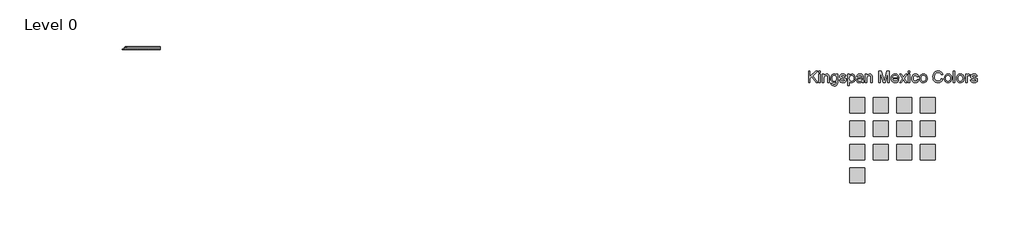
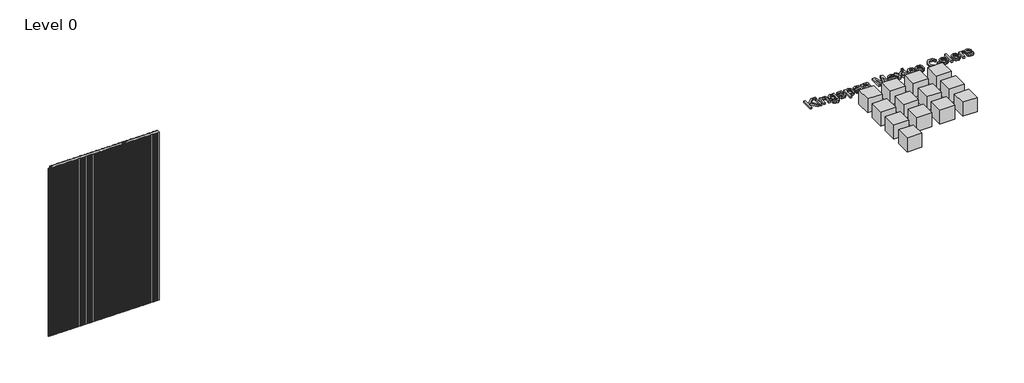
# One storey: 14 proxies, 2 plates.
"""IFC4 building model written with IfcOpenShell, lengths in millimetres."""

from ifc_helpers import new_model, si_unit, origin, place, context, project, spatial, transform, mapped, element, save
from components import generic_models_94ed907e, ks_colour_sample_ks_colour_sample_0243efec, vt_040mm_0b9b046a, vt_040mm_48560dee

model = new_model("IFC4")

# Units and contexts
model_context = context("Model", 3, world=origin())
ifc_project = project(units=[si_unit("LENGTHUNIT", "METRE", prefix="MILLI")], contexts=[model_context])

# Site, building, storey
site = spatial("IfcSite", under=ifc_project)
building = spatial("IfcBuilding", under=site)
storey = spatial("IfcBuildingStorey", under=building, Name="Level 0", Elevation=0.0)

# Proxies
placement = place(None, origin())
generic_models_shape = generic_models_94ed907e(model_context)
element("IfcBuildingElementProxy", 1, Name="KIP-MX_ColourRange_English : KIP-MX_ColourRange_English", ObjectType="KIP-MX_ColourRange_English : KIP-MX_ColourRange_English", at=placement, inside=storey, context=model_context, shape_type="MappedRepresentation", body=[
    mapped(generic_models_shape, transform((1966.0629502, 11802.7493823, 0.0), x_axis=(1.0, 0.0, 0.0), y_axis=(0.0, 1.0, 0.0), z_axis=(0.0, 0.0, 1.0))),
])
ks_colour_sample_ks_colour_sample_shape = ks_colour_sample_ks_colour_sample_0243efec(model_context)
element("IfcBuildingElementProxy", 2, Name="KS_Colour Sample : KS_Colour Sample", ObjectType="KS_Colour Sample : KS_Colour Sample", at=placement, inside=storey, context=model_context, shape_type="MappedRepresentation", body=[
    mapped(ks_colour_sample_ks_colour_sample_shape, transform((1501.0629502, 13781.2299273, 0.0), x_axis=(1.0, 0.0, 0.0), y_axis=(0.0, 1.0, 0.0), z_axis=(0.0, 0.0, 1.0))),
])
element("IfcBuildingElementProxy", 3, Name="KS_Colour Sample : KS_Colour Sample", ObjectType="KS_Colour Sample : KS_Colour Sample", at=placement, inside=storey, context=model_context, shape_type="MappedRepresentation", body=[
    mapped(ks_colour_sample_ks_colour_sample_shape, transform((1811.0629502, 13781.2299273, 0.0), x_axis=(1.0, 0.0, 0.0), y_axis=(0.0, 1.0, 0.0), z_axis=(0.0, 0.0, 1.0))),
])
element("IfcBuildingElementProxy", 4, Name="KS_Colour Sample : KS_Colour Sample", ObjectType="KS_Colour Sample : KS_Colour Sample", at=placement, inside=storey, context=model_context, shape_type="MappedRepresentation", body=[
    mapped(ks_colour_sample_ks_colour_sample_shape, transform((2121.0629502, 13781.2299273, 0.0), x_axis=(1.0, 0.0, 0.0), y_axis=(0.0, 1.0, 0.0), z_axis=(0.0, 0.0, 1.0))),
])
element("IfcBuildingElementProxy", 5, Name="KS_Colour Sample : KS_Colour Sample", ObjectType="KS_Colour Sample : KS_Colour Sample", at=placement, inside=storey, context=model_context, shape_type="MappedRepresentation", body=[
    mapped(ks_colour_sample_ks_colour_sample_shape, transform((2431.0629502, 13781.2299273, 0.0), x_axis=(1.0, 0.0, 0.0), y_axis=(0.0, 1.0, 0.0), z_axis=(0.0, 0.0, 1.0))),
])
element("IfcBuildingElementProxy", 6, Name="KS_Colour Sample : KS_Colour Sample", ObjectType="KS_Colour Sample : KS_Colour Sample", at=placement, inside=storey, context=model_context, shape_type="MappedRepresentation", body=[
    mapped(ks_colour_sample_ks_colour_sample_shape, transform((1501.0629502, 13471.2299273, 0.0), x_axis=(1.0, 0.0, 0.0), y_axis=(0.0, 1.0, 0.0), z_axis=(0.0, 0.0, 1.0))),
])
element("IfcBuildingElementProxy", 7, Name="KS_Colour Sample : KS_Colour Sample", ObjectType="KS_Colour Sample : KS_Colour Sample", at=placement, inside=storey, context=model_context, shape_type="MappedRepresentation", body=[
    mapped(ks_colour_sample_ks_colour_sample_shape, transform((1811.0629502, 13471.2299273, 0.0), x_axis=(1.0, 0.0, 0.0), y_axis=(0.0, 1.0, 0.0), z_axis=(0.0, 0.0, 1.0))),
])
element("IfcBuildingElementProxy", 8, Name="KS_Colour Sample : KS_Colour Sample", ObjectType="KS_Colour Sample : KS_Colour Sample", at=placement, inside=storey, context=model_context, shape_type="MappedRepresentation", body=[
    mapped(ks_colour_sample_ks_colour_sample_shape, transform((2121.0629502, 13471.2299273, 0.0), x_axis=(1.0, 0.0, 0.0), y_axis=(0.0, 1.0, 0.0), z_axis=(0.0, 0.0, 1.0))),
])
element("IfcBuildingElementProxy", 9, Name="KS_Colour Sample : KS_Colour Sample", ObjectType="KS_Colour Sample : KS_Colour Sample", at=placement, inside=storey, context=model_context, shape_type="MappedRepresentation", body=[
    mapped(ks_colour_sample_ks_colour_sample_shape, transform((2431.0629502, 13471.2299273, 0.0), x_axis=(1.0, 0.0, 0.0), y_axis=(0.0, 1.0, 0.0), z_axis=(0.0, 0.0, 1.0))),
])
element("IfcBuildingElementProxy", 10, Name="KS_Colour Sample : KS_Colour Sample", ObjectType="KS_Colour Sample : KS_Colour Sample", at=placement, inside=storey, context=model_context, shape_type="MappedRepresentation", body=[
    mapped(ks_colour_sample_ks_colour_sample_shape, transform((1501.0629502, 13161.2299273, 0.0), x_axis=(1.0, 0.0, 0.0), y_axis=(0.0, 1.0, 0.0), z_axis=(0.0, 0.0, 1.0))),
])
element("IfcBuildingElementProxy", 11, Name="KS_Colour Sample : KS_Colour Sample", ObjectType="KS_Colour Sample : KS_Colour Sample", at=placement, inside=storey, context=model_context, shape_type="MappedRepresentation", body=[
    mapped(ks_colour_sample_ks_colour_sample_shape, transform((1811.0629502, 13161.2299273, 0.0), x_axis=(1.0, 0.0, 0.0), y_axis=(0.0, 1.0, 0.0), z_axis=(0.0, 0.0, 1.0))),
])
element("IfcBuildingElementProxy", 12, Name="KS_Colour Sample : KS_Colour Sample", ObjectType="KS_Colour Sample : KS_Colour Sample", at=placement, inside=storey, context=model_context, shape_type="MappedRepresentation", body=[
    mapped(ks_colour_sample_ks_colour_sample_shape, transform((2121.0629502, 13161.2299273, 0.0), x_axis=(1.0, 0.0, 0.0), y_axis=(0.0, 1.0, 0.0), z_axis=(0.0, 0.0, 1.0))),
])
element("IfcBuildingElementProxy", 13, Name="KS_Colour Sample : KS_Colour Sample", ObjectType="KS_Colour Sample : KS_Colour Sample", at=placement, inside=storey, context=model_context, shape_type="MappedRepresentation", body=[
    mapped(ks_colour_sample_ks_colour_sample_shape, transform((2431.0629502, 13161.2299273, 0.0), x_axis=(1.0, 0.0, 0.0), y_axis=(0.0, 1.0, 0.0), z_axis=(0.0, 0.0, 1.0))),
])
element("IfcBuildingElementProxy", 14, Name="KS_Colour Sample : KS_Colour Sample", ObjectType="KS_Colour Sample : KS_Colour Sample", at=placement, inside=storey, context=model_context, shape_type="MappedRepresentation", body=[
    mapped(ks_colour_sample_ks_colour_sample_shape, transform((1501.0629502, 12851.2299273, 0.0), x_axis=(1.0, 0.0, 0.0), y_axis=(0.0, 1.0, 0.0), z_axis=(0.0, 0.0, 1.0))),
])

# Plates
vt_040mm_shape = vt_040mm_0b9b046a(model_context)
element("IfcPlate", 15, ObjectType="KIP-MEX-FW-R19-CP-Vt-MR : Vt 040mm", at=placement, inside=storey, context=model_context, shape_type="MappedRepresentation", body=[
    mapped(vt_040mm_shape, transform((-8678.7250934, 14558.8221806, 0.0), x_axis=(1.0, 0.0, 0.0), y_axis=(0.0, 1.0, 0.0), z_axis=(0.0, 0.0, 1.0))),
])
vt_040mm_2_shape = vt_040mm_48560dee(model_context)
element("IfcPlate", 16, ObjectType="KIP-MEX-FW-R19-CP-Vt-MR : Vt 040mm", at=placement, inside=storey, context=model_context, shape_type="MappedRepresentation", body=[
    mapped(vt_040mm_2_shape, transform((-7938.7250934, 14558.8221806, 0.0), x_axis=(1.0, 0.0, 0.0), y_axis=(0.0, 1.0, 0.0), z_axis=(0.0, 0.0, 1.0))),
])

save(model, "model.ifc")
